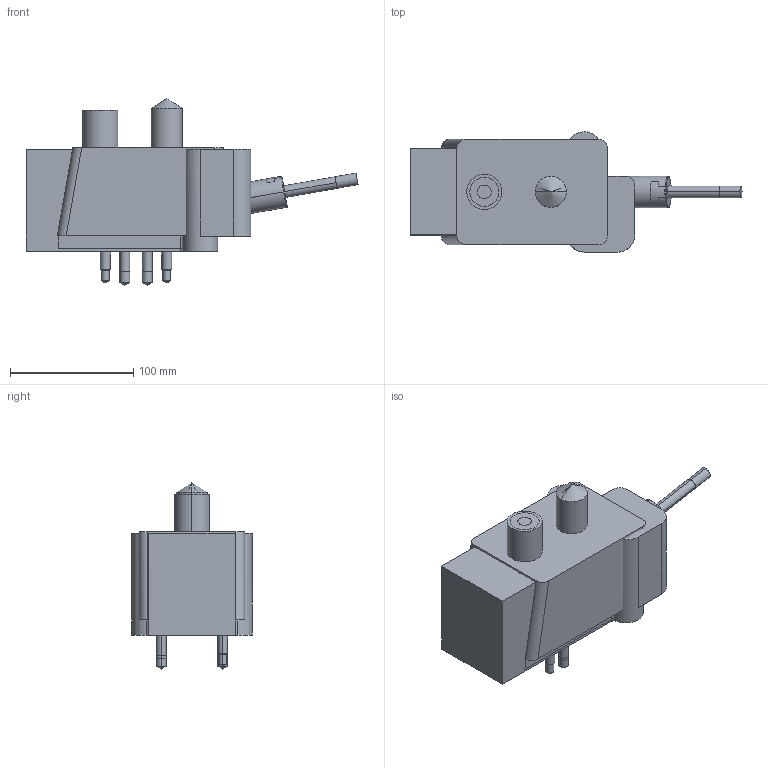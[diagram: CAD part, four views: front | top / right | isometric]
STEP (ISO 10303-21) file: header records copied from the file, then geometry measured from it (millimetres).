
FILE_DESCRIPTION((' '),'2;1');
FILE_NAME( 'EZ-10-P-L.stp', '2023-11-30T09:06:31', (' '), ('--- Datakit www.datakit.com---'), ' Datakit CrossCadWare V2020.4 Oct 21 2020', 'Export from SolidLink (Hexagon Production Software)', ' ');
FILE_SCHEMA(('AP242_MANAGED_MODEL_BASED_3D_ENGINEERING_MIM_LF { 1 0 10303 442 1 1 4 }'));
Length unit declared in the file: millimetre
Products named in the file (125): Workplanes; 1700579156; 1679434291; 1700503705; 1700503811; 1679426180; 1679426181; 1679426182; 1679426186; 1679426188; 1679426192; 1679426199; 1679426218; 1679426219; 1679426220; 1679426221; 1679426222; 1700841060; 1700841162; 1701271048; 1701353355; 1701353356; 1701353357; 1701353358; 1701353359; 1701353360; 1701353361; 1701353362; 1701353363; 1701353364; 1701353365; 1701353366; 1701353367; 1701353368; 1701353369; 1701353370; 1701353371; 1701353372; 1701353373; 1701353374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
Bounding box: 269.7 x 97.75 x 151.64 mm (x, y, z)
Volume: 2631885.2 mm3; surface area: 236834.8 mm2
Topology: 18 solids, 19 shells, 472 faces, 1330 edges, 1112 vertices
Faces by surface type: cylinder 184, plane 166, cone 102, sphere 6, torus 6, bspline 4, revolution 4
Entity records: 21084 total; most frequent: CARTESIAN_POINT 7455, DIRECTION 2733, ORIENTED_EDGE 2204, EDGE_CURVE 1108, AXIS2_PLACEMENT_3D 1077, VERTEX_POINT 708, VECTOR 575, LINE 575
